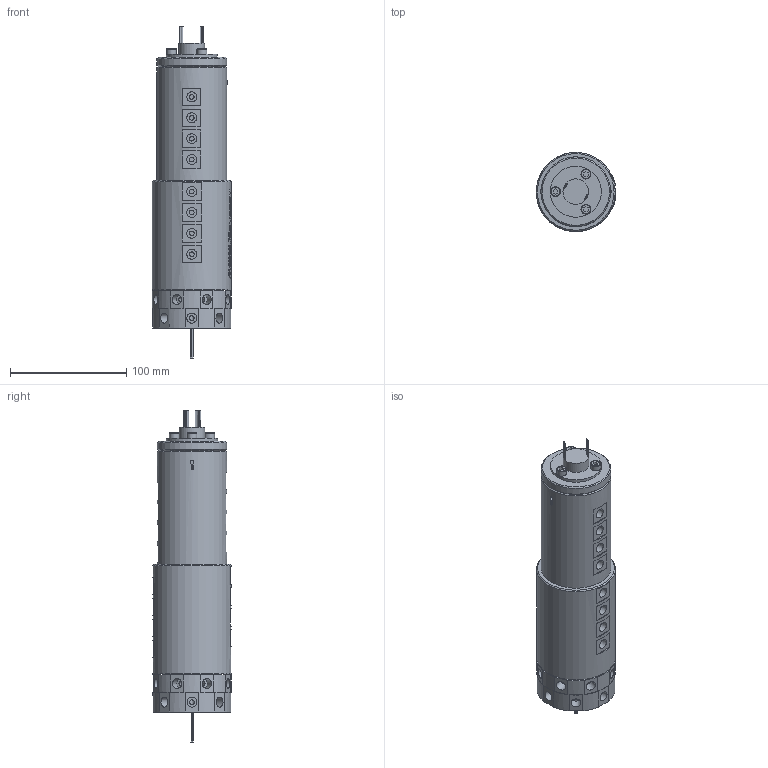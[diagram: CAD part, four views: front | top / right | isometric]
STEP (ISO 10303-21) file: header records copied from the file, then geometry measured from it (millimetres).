
FILE_DESCRIPTION(/* description */ (''),/* implementation_level */ '2;1');
FILE_NAME(/* name */ 'YQ1801-06M.stp',/* time_stamp */ '2025-02-15T15:38:07+08:00',/* author */ (''),/* organization */ (''),/* preprocessor_version */ 'ST-DEVELOPER v16.7',/* originating_system */ 'SIEMENS PLM Software NX 12.0',/* authorisation */ '');
FILE_SCHEMA (('AUTOMOTIVE_DESIGN { 1 0 10303 214 3 1 1 1 }'));
Products named in the file (1): HX0527348ECCpcl8
Bounding box: 68.42 x 68 x 285.8 mm (x, y, z)
Volume: 725902.1 mm3; surface area: 92142.3 mm2
Topology: 1 solids, 9 shells, 1533 faces, 3977 edges, 2693 vertices
Faces by surface type: extrusion 671, plane 619, cylinder 195, bspline 33, cone 12, torus 3
Full cylindrical faces by diameter (mm): 0.8 x16, 3.4 x10, 4 x56, 4.1 x16, 4.2 x16, 7.8 x1, 8 x1, 8.5 x35, 22 x1, 44 x1, 47 x1, 60 x2, 68 x2
Entity records: 54134 total; most frequent: CARTESIAN_POINT 22410, ORIENTED_EDGE 7326, DIRECTION 4092, EDGE_CURVE 3663, B_SPLINE_CURVE_WITH_KNOTS 3112, VERTEX_POINT 2573, EDGE_LOOP 1944, ADVANCED_FACE 1530
